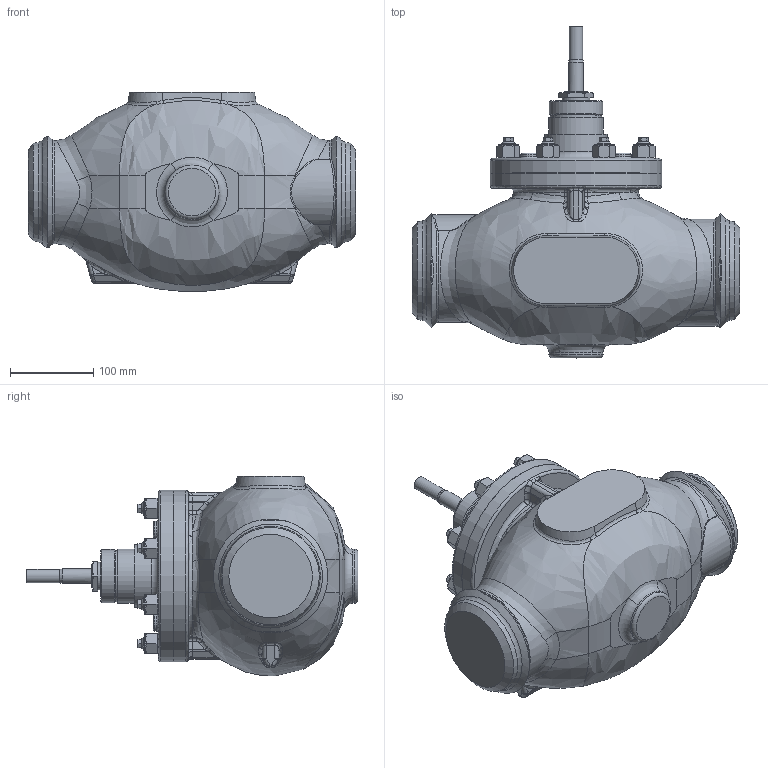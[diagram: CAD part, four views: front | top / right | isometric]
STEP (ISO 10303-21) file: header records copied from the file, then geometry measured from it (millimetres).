
FILE_DESCRIPTION(/* description */ (''),/* implementation_level */ '2;1');
FILE_NAME(/* name */ 'CV3xx_NPS_4_privarovaci.stp',/* time_stamp */ '2014-01-07T06:45:16+01:00',/* author */ (''),/* organization */ ('LDM'),/* preprocessor_version */ 'ST-DEVELOPER v11',/* originating_system */ 'SIEMENS PLM Software NX 7.0',/* authorisation */ '');
FILE_SCHEMA (('CONFIG_CONTROL_DESIGN'));
Length unit declared in the file: millimetre
Products named in the file (1): adamED63ysxs
Bounding box: 394 x 399 x 239.84 mm (x, y, z)
Volume: 11516749.1 mm3; surface area: 382294.9 mm2
Topology: 1 solids, 9 shells, 634 faces, 1434 edges, 837 vertices
Faces by surface type: cone 189, plane 184, cylinder 112, bspline 106, torus 31, sphere 12
Full cylindrical faces by diameter (mm): 16 x25, 18 x1, 22 x4, 24 x16, 27 x1, 33 x1, 61.6 x1, 64 x1, 65 x2, 75 x1, 140 x1, 206 x2
Entity records: 20201 total; most frequent: CARTESIAN_POINT 7824, ORIENTED_EDGE 2560, DIRECTION 2318, EDGE_CURVE 1280, AXIS2_PLACEMENT_3D 1036, EDGE_LOOP 797, VERTEX_POINT 795, ADVANCED_FACE 634
